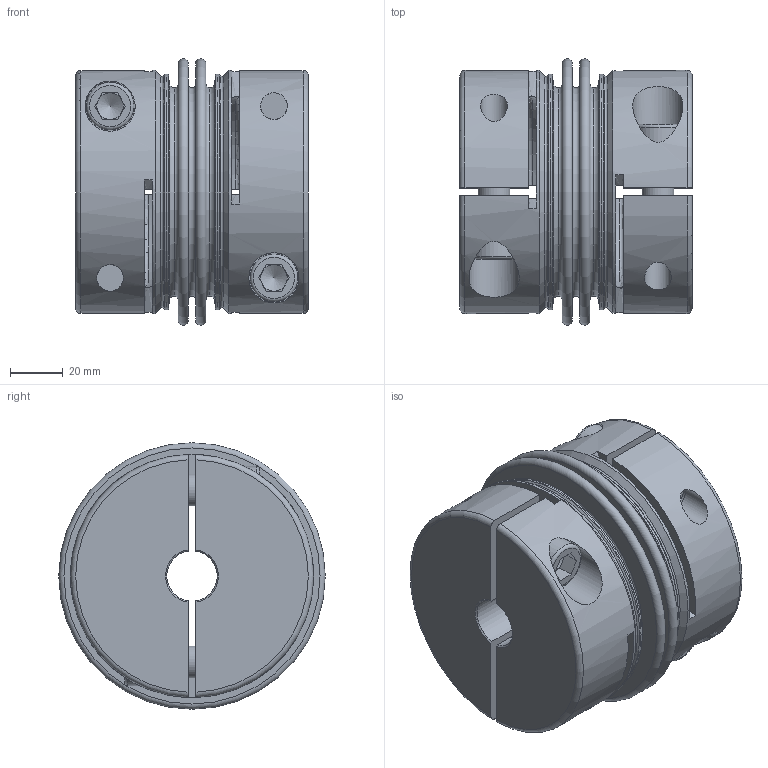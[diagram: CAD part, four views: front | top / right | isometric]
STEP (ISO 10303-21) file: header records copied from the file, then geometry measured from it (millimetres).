
FILE_DESCRIPTION(/* description */ ('Unknown','CAx-IF Rec.Pracs.---Representation and Presentation of Product Manufacturing Information (PMI)---4.0---2014-10-13','CAx-IF Rec.Pracs.---3D Tessellated Geometry---0.4---2014-09-14','2;1'),/* implementation_level */ '2;1');
FILE_NAME(/* name */ 'KG-HS 400-2W',/* time_stamp */ '2022-11-25T11:51:47+01:00',/* author */ ('Unknown'),/* organization */ ('Unknown'),/* preprocessor_version */ 'ST-DEVELOPER v18.102',/* originating_system */ 'Solid Edge',/* authorisation */ 'Unknown');
FILE_SCHEMA (('AP242_MANAGED_MODEL_BASED_3D_ENGINEERING_MIM_LF { 1 0 10303 442 1 1 4 }'));
Length unit declared in the file: millimetre
Products named in the file (1): 04824565
Bounding box: 88.01 x 100.82 x 100.82 mm (x, y, z)
Volume: 344352.3 mm3; surface area: 109802.8 mm2
Topology: 1 solids, 1 shells, 202 faces, 470 edges, 294 vertices
Faces by surface type: plane 102, cylinder 50, torus 30, cone 20
Full cylindrical faces by diameter (mm): 10.106 x8, 12 x4, 12.5 x4, 18 x4, 19 x4, 88.6 x2, 89 x2, 92 x2
Entity records: 7416 total; most frequent: CARTESIAN_POINT 1686, DIRECTION 928, ORIENTED_EDGE 768, AXIS2_PLACEMENT_3D 388, EDGE_CURVE 384, FACE_BOUND 304, EDGE_LOOP 300, VERTEX_POINT 276
